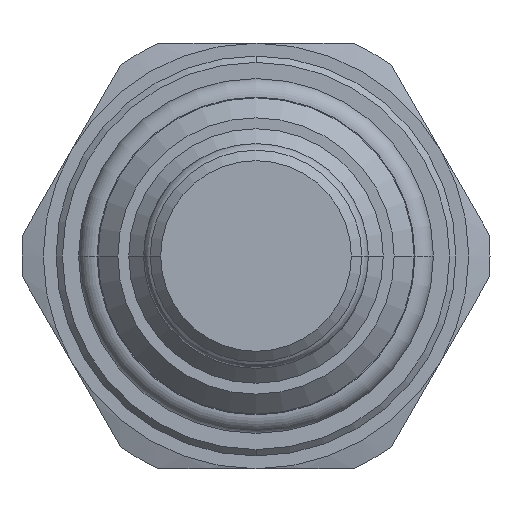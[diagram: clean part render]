
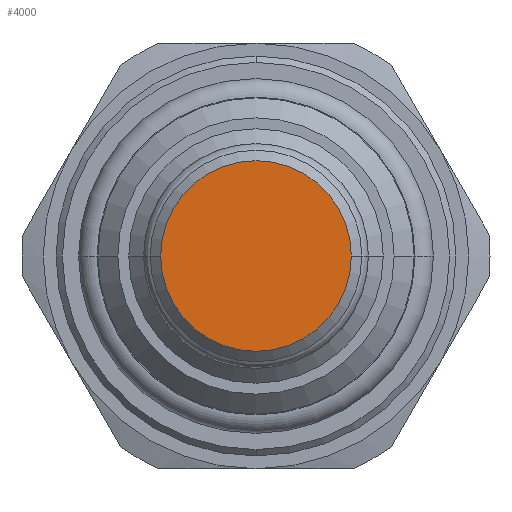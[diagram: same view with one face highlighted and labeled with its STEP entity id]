
A CAD part, front view. The second image highlights one B-rep face of the part: STEP entity #4000.
In plain terms, the highlighted planar face has unit normal (0, -1, 0).
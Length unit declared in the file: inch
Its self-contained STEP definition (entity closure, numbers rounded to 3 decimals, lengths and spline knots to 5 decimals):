
#1509=CARTESIAN_POINT('',(0.,-1.091,0.));
#1510=DIRECTION('',(0.,-1.,0.));
#1511=DIRECTION('',(-1.,0.,0.));
#1512=AXIS2_PLACEMENT_3D('',#1509,#1510,#1511);
#1523=CARTESIAN_POINT('',(0.,-1.091,0.));
#1524=DIRECTION('',(0.,-1.,0.));
#1525=DIRECTION('',(1.,0.,0.));
#1526=AXIS2_PLACEMENT_3D('',#1523,#1524,#1525);
#2182=CARTESIAN_POINT('',(-0.224,-1.091,0.));
#2183=CARTESIAN_POINT('',(0.224,-1.091,0.));
#2184=VERTEX_POINT('',#2182);
#2185=VERTEX_POINT('',#2183);
#3991=CARTESIAN_POINT('',(0.,-1.091,0.));
#3992=DIRECTION('',(0.,-1.,0.));
#3993=DIRECTION('',(-1.,0.,0.));
#3994=AXIS2_PLACEMENT_3D('',#3991,#3992,#3993);
#3995=PLANE('',#3994);
#3996=ORIENTED_EDGE('',*,*,#3971,.F.);
#3997=ORIENTED_EDGE('',*,*,#3985,.F.);
#3998=EDGE_LOOP('',(#3996,#3997));
#3999=FACE_OUTER_BOUND('',#3998,.F.);
#4000=ADVANCED_FACE('',(#3999),#3995,.T.);
#1513=CIRCLE('',#1512,0.224);
#1527=CIRCLE('',#1526,0.224);
#3971=EDGE_CURVE('',#2184,#2185,#1513,.T.);
#3985=EDGE_CURVE('',#2185,#2184,#1527,.T.);
